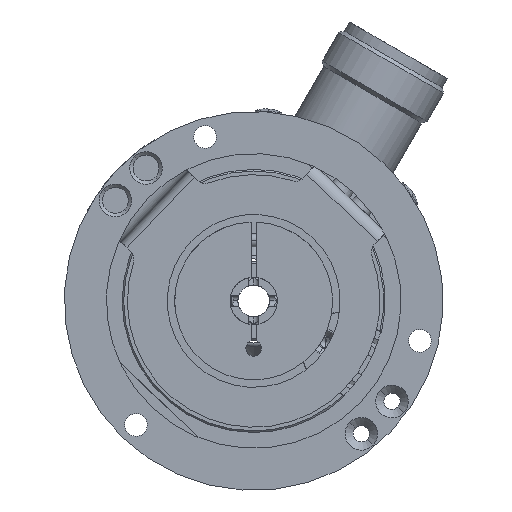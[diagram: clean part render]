
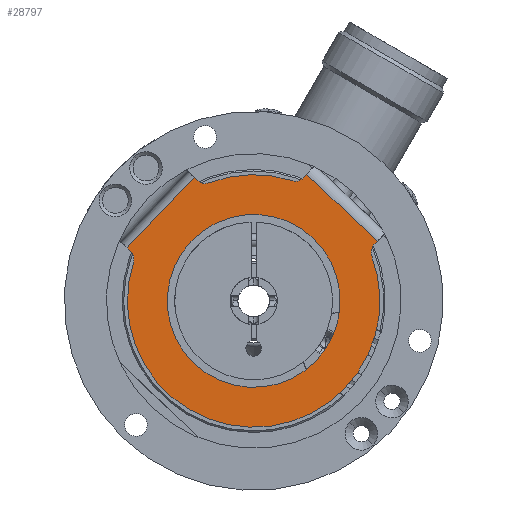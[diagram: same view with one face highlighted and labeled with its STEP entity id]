
A CAD part, left-side view. The second image highlights one B-rep face of the part: STEP entity #28797.
In plain terms, the highlighted planar face has unit normal (-1, 0, 0).
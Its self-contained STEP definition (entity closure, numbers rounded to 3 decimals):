
#17320 = CARTESIAN_POINT ( 'NONE',  ( -2.2, 11.914, 11.306 ) ) ;
#17321 = CARTESIAN_POINT ( 'NONE',  ( -2.2, -11.914, -11.306 ) ) ;
#17322 = DIRECTION ( 'NONE',  ( 0., 0.725, 0.688 ) ) ;
#17323 = DIRECTION ( 'NONE',  ( -1., 0., 0. ) ) ;
#17324 = CARTESIAN_POINT ( 'NONE',  ( -2.2, 0., 0. ) ) ;
#17325 = AXIS2_PLACEMENT_3D ( 'NONE', #17324, #17323, #17322 ) ;
#17330 = CIRCLE ( 'NONE', #17325, 16.425 ) ;
#17360 = CARTESIAN_POINT ( 'NONE',  ( -2.2, 9.259, 24.296 ) ) ;
#17361 = CARTESIAN_POINT ( 'NONE',  ( -2.2, 8.547, 22.427 ) ) ;
#17362 = DIRECTION ( 'NONE',  ( 0., 0.725, 0.688 ) ) ;
#17363 = DIRECTION ( 'NONE',  ( -1., 0., 0. ) ) ;
#17364 = CARTESIAN_POINT ( 'NONE',  ( -2.2, 0., 0. ) ) ;
#17365 = AXIS2_PLACEMENT_3D ( 'NONE', #17364, #17363, #17362 ) ;
#17366 = CIRCLE ( 'NONE', #17365, 24. ) ;
#17394 = LINE ( 'NONE', #17459, #17458 ) ;
#17395 = CARTESIAN_POINT ( 'NONE',  ( -2.2, -23.506, 11.332 ) ) ;
#17396 = DIRECTION ( 'NONE',  ( 0., -0.688, 0.725 ) ) ;
#17397 = VECTOR ( 'NONE', #17396, 1000. ) ;
#17398 = CARTESIAN_POINT ( 'NONE',  ( -2.2, -21.954, 9.697 ) ) ;
#17399 = LINE ( 'NONE', #17398, #17397 ) ;
#17400 = CARTESIAN_POINT ( 'NONE',  ( -2.2, -22.845, 10.636 ) ) ;
#17401 = DIRECTION ( 'NONE',  ( 0., 0.725, 0.688 ) ) ;
#17402 = DIRECTION ( 'NONE',  ( 1., 0., 0. ) ) ;
#17403 = CARTESIAN_POINT ( 'NONE',  ( -2.2, -24.296, 9.259 ) ) ;
#17404 = AXIS2_PLACEMENT_3D ( 'NONE', #17403, #17402, #17401 ) ;
#17405 = CIRCLE ( 'NONE', #17404, 2. ) ;
#17406 = CARTESIAN_POINT ( 'NONE',  ( -2.2, 22.843, 7.361 ) ) ;
#17407 = DIRECTION ( 'NONE',  ( 0., 0.725, 0.688 ) ) ;
#17408 = DIRECTION ( 'NONE',  ( -1., 0., 0. ) ) ;
#17409 = CARTESIAN_POINT ( 'NONE',  ( -2.2, 0., 0. ) ) ;
#17410 = AXIS2_PLACEMENT_3D ( 'NONE', #17409, #17408, #17407 ) ;
#17411 = CIRCLE ( 'NONE', #17410, 24. ) ;
#17412 = CARTESIAN_POINT ( 'NONE',  ( -2.2, 24.066, 10.086 ) ) ;
#17413 = CARTESIAN_POINT ( 'NONE',  ( -2.2, 11.332, 23.506 ) ) ;
#17414 = DIRECTION ( 'NONE',  ( 0., 0.725, 0.688 ) ) ;
#17415 = VECTOR ( 'NONE', #17414, 1000. ) ;
#17416 = CARTESIAN_POINT ( 'NONE',  ( -2.2, 9.697, 21.954 ) ) ;
#17417 = LINE ( 'NONE', #17416, #17415 ) ;
#17418 = CARTESIAN_POINT ( 'NONE',  ( -2.2, 10.636, 22.845 ) ) ;
#17419 = DIRECTION ( 'NONE',  ( 0., 0.725, 0.688 ) ) ;
#17420 = DIRECTION ( 'NONE',  ( 1., 0., 0. ) ) ;
#17421 = AXIS2_PLACEMENT_3D ( 'NONE', #17360, #17420, #17419 ) ;
#17422 = CIRCLE ( 'NONE', #17421, 2. ) ;
#17433 = FACE_BOUND ( 'NONE', #28858, .T. ) ;
#17434 = FACE_OUTER_BOUND ( 'NONE', #28799, .T. ) ;
#17456 = CARTESIAN_POINT ( 'NONE',  ( -2.2, -10.086, 24.066 ) ) ;
#17457 = DIRECTION ( 'NONE',  ( 0., 0.725, 0.688 ) ) ;
#17458 = VECTOR ( 'NONE', #17457, 1000. ) ;
#17459 = CARTESIAN_POINT ( 'NONE',  ( -2.2, -16.796, 17.699 ) ) ;
#17473 = DIRECTION ( 'NONE',  ( 0., 0.725, 0.688 ) ) ;
#17474 = DIRECTION ( 'NONE',  ( -1., 0., 0. ) ) ;
#17475 = CARTESIAN_POINT ( 'NONE',  ( -2.2, 0., 0. ) ) ;
#17476 = AXIS2_PLACEMENT_3D ( 'NONE', #17475, #17474, #17473 ) ;
#17479 = PLANE ( 'NONE',  #17476 ) ;
#17501 = CARTESIAN_POINT ( 'NONE',  ( -2.2, -22.427, 8.547 ) ) ;
#17502 = CARTESIAN_POINT ( 'NONE',  ( -2.2, -17.409, -16.521 ) ) ;
#17503 = DIRECTION ( 'NONE',  ( 0., 0.725, 0.688 ) ) ;
#17504 = DIRECTION ( 'NONE',  ( -1., 0., 0. ) ) ;
#17505 = CARTESIAN_POINT ( 'NONE',  ( -2.2, 0., 0. ) ) ;
#17506 = AXIS2_PLACEMENT_3D ( 'NONE', #17505, #17504, #17503 ) ;
#17512 = CIRCLE ( 'NONE', #17506, 24. ) ;
#17515 = DIRECTION ( 'NONE',  ( 0., 0.688, -0.725 ) ) ;
#17516 = VECTOR ( 'NONE', #17515, 1000. ) ;
#17517 = CARTESIAN_POINT ( 'NONE',  ( -2.2, 24.066, 10.086 ) ) ;
#17518 = LINE ( 'NONE', #17517, #17516 ) ;
#17561 = DIRECTION ( 'NONE',  ( 0., 0.725, 0.688 ) ) ;
#17562 = DIRECTION ( 'NONE',  ( -1., 0., 0. ) ) ;
#17563 = CARTESIAN_POINT ( 'NONE',  ( -2.2, 0., 0. ) ) ;
#17564 = AXIS2_PLACEMENT_3D ( 'NONE', #17563, #17562, #17561 ) ;
#17565 = CIRCLE ( 'NONE', #17564, 16.425 ) ;
#17569 = DIRECTION ( 'NONE',  ( 0., 0.725, 0.688 ) ) ;
#17570 = DIRECTION ( 'NONE',  ( 1., 0., 0. ) ) ;
#17571 = CARTESIAN_POINT ( 'NONE',  ( -2.2, 24.747, 7.975 ) ) ;
#17572 = AXIS2_PLACEMENT_3D ( 'NONE', #17571, #17570, #17569 ) ;
#17573 = CIRCLE ( 'NONE', #17572, 2. ) ;
#17574 = CARTESIAN_POINT ( 'NONE',  ( -2.2, 23.37, 9.425 ) ) ;
#17575 = DIRECTION ( 'NONE',  ( 0., -0.725, -0.688 ) ) ;
#17576 = VECTOR ( 'NONE', #17575, 1000. ) ;
#17577 = CARTESIAN_POINT ( 'NONE',  ( -2.2, 22.431, 8.534 ) ) ;
#17578 = LINE ( 'NONE', #17577, #17576 ) ;
#17590 = CARTESIAN_POINT ( 'NONE',  ( -2.2, -7.361, 22.843 ) ) ;
#17591 = DIRECTION ( 'NONE',  ( 0., 0.725, 0.688 ) ) ;
#17592 = DIRECTION ( 'NONE',  ( 1., 0., 0. ) ) ;
#17594 = CARTESIAN_POINT ( 'NONE',  ( -2.2, -7.975, 24.747 ) ) ;
#17595 = AXIS2_PLACEMENT_3D ( 'NONE', #17594, #17592, #17591 ) ;
#17596 = CIRCLE ( 'NONE', #17595, 2. ) ;
#17598 = CARTESIAN_POINT ( 'NONE',  ( -2.2, -9.425, 23.37 ) ) ;
#17599 = DIRECTION ( 'NONE',  ( 0., 0.688, -0.725 ) ) ;
#17600 = VECTOR ( 'NONE', #17599, 1000. ) ;
#17601 = CARTESIAN_POINT ( 'NONE',  ( -2.2, -8.534, 22.431 ) ) ;
#17602 = LINE ( 'NONE', #17601, #17600 ) ;
#28680 = EDGE_CURVE ( 'NONE', #28681, #28682, #17330, .T. ) ;
#28681 = VERTEX_POINT ( 'NONE', #17321 ) ;
#28682 = VERTEX_POINT ( 'NONE', #17320 ) ;
#28737 = EDGE_CURVE ( 'NONE', #28881, #28738, #17366, .T. ) ;
#28738 = VERTEX_POINT ( 'NONE', #17361 ) ;
#28740 = ORIENTED_EDGE ( 'NONE', *, *, #28742, .T. ) ;
#28742 = EDGE_CURVE ( 'NONE', #28738, #28745, #17422, .T. ) ;
#28745 = VERTEX_POINT ( 'NONE', #17418 ) ;
#28747 = ORIENTED_EDGE ( 'NONE', *, *, #28748, .T. ) ;
#28748 = EDGE_CURVE ( 'NONE', #28745, #28749, #17417, .T. ) ;
#28749 = VERTEX_POINT ( 'NONE', #17413 ) ;
#28750 = VERTEX_POINT ( 'NONE', #17412 ) ;
#28752 = ORIENTED_EDGE ( 'NONE', *, *, #28753, .T. ) ;
#28753 = EDGE_CURVE ( 'NONE', #28755, #28806, #17411, .T. ) ;
#28755 = VERTEX_POINT ( 'NONE', #17406 ) ;
#28758 = ORIENTED_EDGE ( 'NONE', *, *, #28804, .T. ) ;
#28760 = ORIENTED_EDGE ( 'NONE', *, *, #28762, .T. ) ;
#28762 = EDGE_CURVE ( 'NONE', #28807, #28763, #17405, .T. ) ;
#28763 = VERTEX_POINT ( 'NONE', #17400 ) ;
#28764 = ORIENTED_EDGE ( 'NONE', *, *, #28765, .T. ) ;
#28765 = EDGE_CURVE ( 'NONE', #28763, #28767, #17399, .T. ) ;
#28767 = VERTEX_POINT ( 'NONE', #17395 ) ;
#28769 = ORIENTED_EDGE ( 'NONE', *, *, #28771, .T. ) ;
#28771 = EDGE_CURVE ( 'NONE', #28767, #28774, #17394, .T. ) ;
#28774 = VERTEX_POINT ( 'NONE', #17456 ) ;
#28797 = ADVANCED_FACE ( 'NONE', ( #17434, #17433 ), #17479, .T. ) ;
#28799 = EDGE_LOOP ( 'NONE', ( #28752, #28758, #28760, #28764, #28769, #28870, #28878, #28883, #28740, #28747, #28841, #28844, #28852 ) ) ;
#28804 = EDGE_CURVE ( 'NONE', #28806, #28807, #17512, .T. ) ;
#28806 = VERTEX_POINT ( 'NONE', #17502 ) ;
#28807 = VERTEX_POINT ( 'NONE', #17501 ) ;
#28841 = ORIENTED_EDGE ( 'NONE', *, *, #28842, .T. ) ;
#28842 = EDGE_CURVE ( 'NONE', #28749, #28750, #17518, .T. ) ;
#28844 = ORIENTED_EDGE ( 'NONE', *, *, #28846, .T. ) ;
#28846 = EDGE_CURVE ( 'NONE', #28750, #28849, #17578, .T. ) ;
#28849 = VERTEX_POINT ( 'NONE', #17574 ) ;
#28852 = ORIENTED_EDGE ( 'NONE', *, *, #28854, .T. ) ;
#28854 = EDGE_CURVE ( 'NONE', #28849, #28755, #17573, .T. ) ;
#28858 = EDGE_LOOP ( 'NONE', ( #28860, #28862 ) ) ;
#28860 = ORIENTED_EDGE ( 'NONE', *, *, #28680, .F. ) ;
#28862 = ORIENTED_EDGE ( 'NONE', *, *, #28865, .F. ) ;
#28865 = EDGE_CURVE ( 'NONE', #28682, #28681, #17565, .T. ) ;
#28870 = ORIENTED_EDGE ( 'NONE', *, *, #28873, .T. ) ;
#28873 = EDGE_CURVE ( 'NONE', #28774, #28876, #17602, .T. ) ;
#28876 = VERTEX_POINT ( 'NONE', #17598 ) ;
#28878 = ORIENTED_EDGE ( 'NONE', *, *, #28880, .T. ) ;
#28880 = EDGE_CURVE ( 'NONE', #28876, #28881, #17596, .T. ) ;
#28881 = VERTEX_POINT ( 'NONE', #17590 ) ;
#28883 = ORIENTED_EDGE ( 'NONE', *, *, #28737, .T. ) ;
